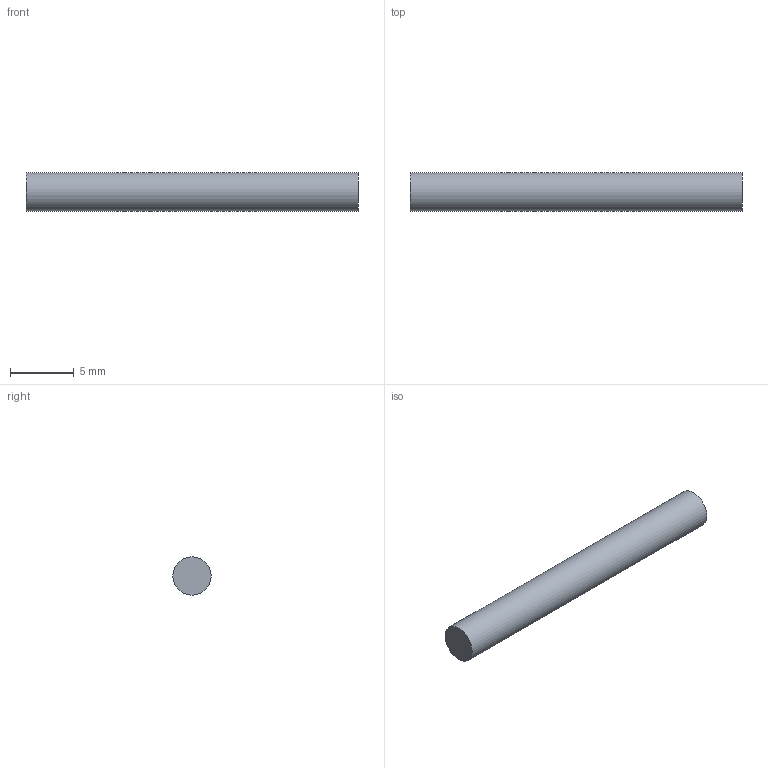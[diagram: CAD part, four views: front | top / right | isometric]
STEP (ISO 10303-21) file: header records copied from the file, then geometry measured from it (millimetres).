
FILE_DESCRIPTION(('Open CASCADE Model'),'2;1');
FILE_NAME('Open CASCADE Shape Model','2026-11-25T12:52:00',('Author'),( 'Open CASCADE'),'Open CASCADE STEP processor 8.0','Open CASCADE 8.0' ,'Unknown');
FILE_SCHEMA(('AP242_MANAGED_MODEL_BASED_3D_ENGINEERING_MIM_LF {1 0 10303 442 1 1 4 }' ));
Length unit declared in the file: millimetre
Products named in the file (1): Plunger
Bounding box: 26 x 3 x 3 mm (x, y, z)
Volume: 183.8 mm3; surface area: 259.2 mm2
Topology: 1 solids, 1 shells, 3 faces, 3 edges, 2 vertices
Faces by surface type: plane 2, cylinder 1
Full cylindrical faces by diameter (mm): 3 x1
Entity records: 117 total; most frequent: DIRECTION 19, CARTESIAN_POINT 15, AXIS2_PLACEMENT_3D 6, ORIENTED_EDGE 6, PCURVE 6, DEFINITIONAL_REPRESENTATION 6, LINE 5, VECTOR 5
